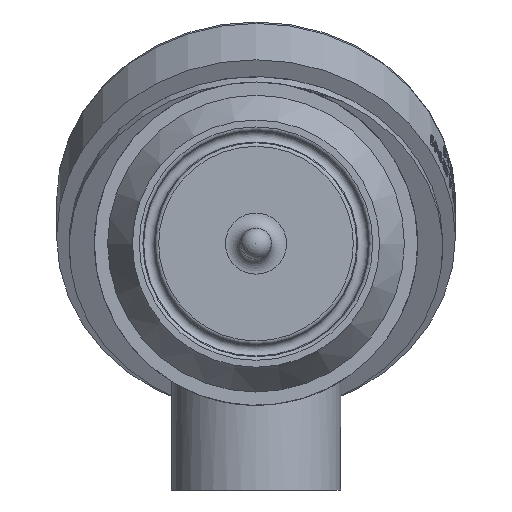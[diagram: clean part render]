
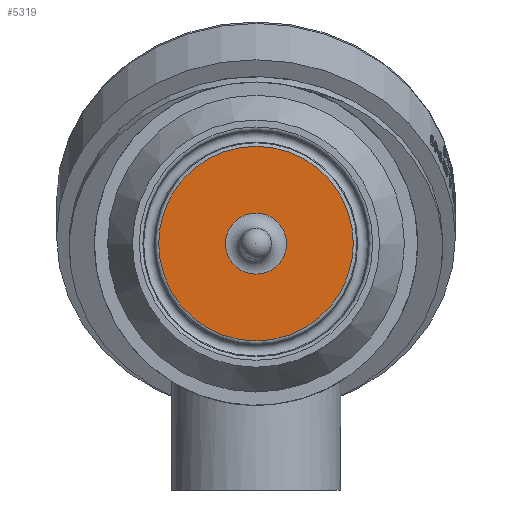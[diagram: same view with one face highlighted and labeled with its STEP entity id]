
A CAD part, front view. The second image highlights one B-rep face of the part: STEP entity #5319.
In plain terms, the highlighted planar face has unit normal (0, -1, 0).
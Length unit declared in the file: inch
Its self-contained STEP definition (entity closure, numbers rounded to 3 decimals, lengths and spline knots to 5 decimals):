
#838=PLANE($,#5645);
#899=FACE_BOUND($,#1835,.T.);
#1499=FACE_OUTER_BOUND($,#1834,.T.);
#1834=EDGE_LOOP($,(#4673));
#1835=EDGE_LOOP($,(#4674));
#1999=CIRCLE($,#5639,0.78106);
#2002=CIRCLE($,#5646,0.24521);
#2506=VERTEX_POINT($,#31791);
#2509=VERTEX_POINT($,#31801);
#3240=EDGE_CURVE($,#2506,#2506,#1999,.T.);
#3243=EDGE_CURVE($,#2509,#2509,#2002,.T.);
#4673=ORIENTED_EDGE($,*,*,#3240,.F.);
#4674=ORIENTED_EDGE($,*,*,#3243,.F.);
#5319=ADVANCED_FACE($,(#1499,#899),#838,.T.);
#5639=AXIS2_PLACEMENT_3D($,#31792,#6562,#6563);
#5645=AXIS2_PLACEMENT_3D($,#31800,#6574,#6575);
#5646=AXIS2_PLACEMENT_3D($,#31802,#6576,#6577);
#6562=DIRECTION('center_axis',(0.,1.,0.));
#6563=DIRECTION('ref_axis',(-1.,0.,0.));
#6574=DIRECTION('center_axis',(0.,-1.,0.));
#6575=DIRECTION('ref_axis',(0.,0.,-1.));
#6576=DIRECTION('center_axis',(0.,-1.,0.));
#6577=DIRECTION('ref_axis',(1.,0.,0.));
#31791=CARTESIAN_POINT('',(5.93076,-2.74843,2.9697));
#31792=CARTESIAN_POINT('Origin',(5.1497,-2.74843,2.9697));
#31800=CARTESIAN_POINT('Origin',(5.27471,-2.74843,2.9697));
#31801=CARTESIAN_POINT('',(4.90449,-2.74843,2.9697));
#31802=CARTESIAN_POINT('Origin',(5.1497,-2.74843,2.9697));
